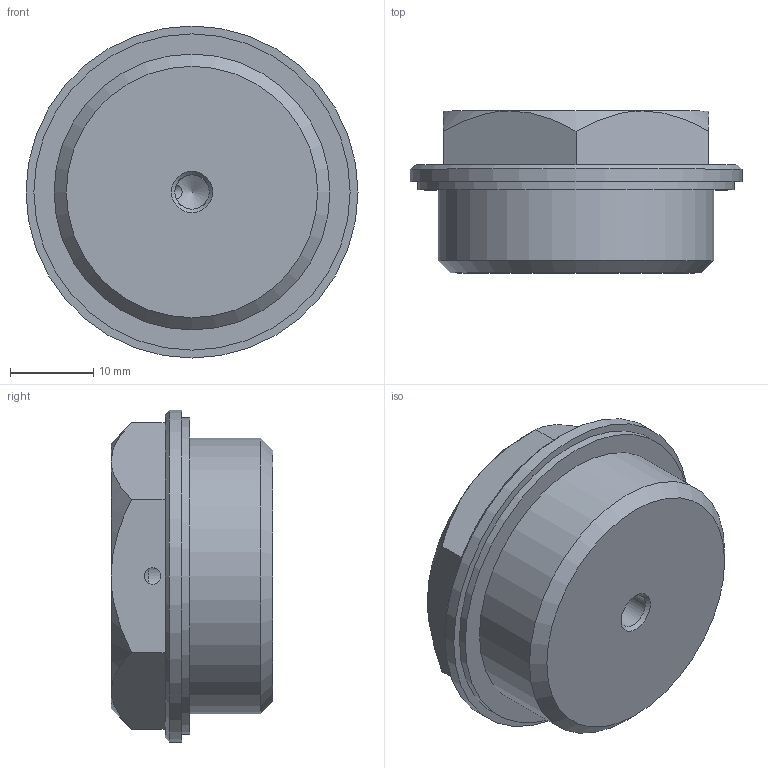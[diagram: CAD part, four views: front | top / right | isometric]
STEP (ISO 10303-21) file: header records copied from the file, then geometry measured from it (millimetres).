
FILE_DESCRIPTION( ( 'STEP AP203' ), '1' );
FILE_NAME( 'C:/Temp/Ganter_Step_05_03_2020/data/3_5/gn742/gn742_2/Threaded plug GN 742-40-G1-ESS-2.stp', '2020-03-12T13:39:39', ( 'License CC BY-ND 4.0' ), ( 'CADENAS' ), ' ', 'PARTsolutions', ' ' );
FILE_SCHEMA( ( 'CONFIG_CONTROL_DESIGN' ) );
Length unit declared in the file: millimetre
Products named in the file (1): _Threaded plug GN 742-40-G1-ESS-2
Bounding box: 40 x 19.5 x 40 mm (x, y, z)
Volume: 17657.1 mm3; surface area: 4738.3 mm2
Topology: 1 solids, 1 shells, 53 faces, 131 edges, 84 vertices
Faces by surface type: plane 38, cone 10, cylinder 5
Full cylindrical faces by diameter (mm): 2 x1, 4.134 x1, 33.249 x1, 38.1 x1, 40 x1
Entity records: 1621 total; most frequent: CARTESIAN_POINT 381, ORIENTED_EDGE 238, DIRECTION 231, EDGE_CURVE 119, LINE 87, VECTOR 87, VERTEX_POINT 82, AXIS2_PLACEMENT_3D 72
